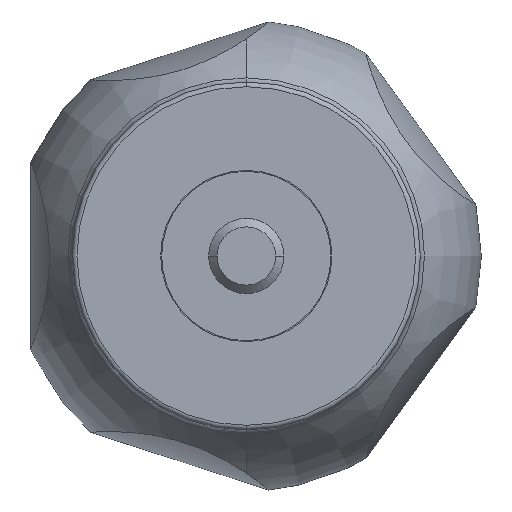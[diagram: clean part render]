
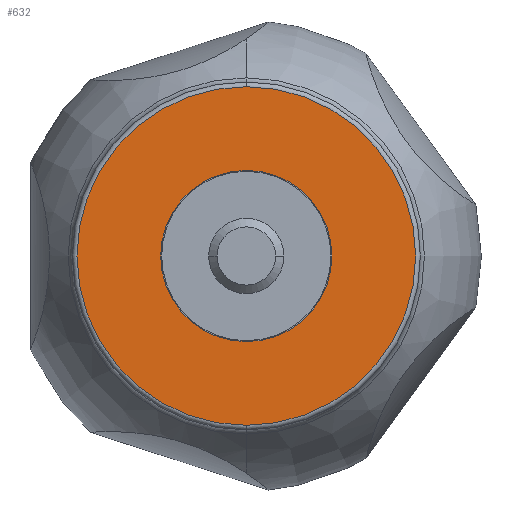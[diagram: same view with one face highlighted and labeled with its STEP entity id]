
A CAD part, left-side view. The second image highlights one B-rep face of the part: STEP entity #632.
In plain terms, the highlighted planar face has unit normal (-1, 0, 0).
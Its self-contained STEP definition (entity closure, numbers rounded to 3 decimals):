
#36 = ORIENTED_EDGE ( 'NONE', *, *, #76, .F. ) ;
#72 = CARTESIAN_POINT ( 'NONE',  ( 0., 0., 0. ) ) ;
#76 = EDGE_CURVE ( 'NONE', #1227, #270, #895, .T. ) ;
#81 = DIRECTION ( 'NONE',  ( 0., 0., 1. ) ) ;
#112 = CIRCLE ( 'NONE', #1389, 18. ) ;
#172 = DIRECTION ( 'NONE',  ( 0., 0., 1. ) ) ;
#221 = DIRECTION ( 'NONE',  ( 0., 0., -1. ) ) ;
#233 = PLANE ( 'NONE',  #1273 ) ;
#262 = EDGE_LOOP ( 'NONE', ( #292, #1156 ) ) ;
#270 = VERTEX_POINT ( 'NONE', #346 ) ;
#292 = ORIENTED_EDGE ( 'NONE', *, *, #635, .T. ) ;
#320 = CIRCLE ( 'NONE', #1270, 9.1 ) ;
#346 = CARTESIAN_POINT ( 'NONE',  ( 0., 0., -9.1 ) ) ;
#351 = VERTEX_POINT ( 'NONE', #1350 ) ;
#354 = EDGE_CURVE ( 'NONE', #270, #1227, #320, .T. ) ;
#416 = CARTESIAN_POINT ( 'NONE',  ( 0., 0., 0. ) ) ;
#484 = EDGE_LOOP ( 'NONE', ( #36, #1263 ) ) ;
#509 = CARTESIAN_POINT ( 'NONE',  ( 0., 0., -18. ) ) ;
#555 = FACE_OUTER_BOUND ( 'NONE', #262, .T. ) ;
#581 = DIRECTION ( 'NONE',  ( 0., 0., 1. ) ) ;
#632 = ADVANCED_FACE ( 'NONE', ( #683, #555 ), #233, .F. ) ;
#635 = EDGE_CURVE ( 'NONE', #351, #781, #1164, .T. ) ;
#683 = FACE_BOUND ( 'NONE', #484, .T. ) ;
#755 = CARTESIAN_POINT ( 'NONE',  ( 0., 0., 0. ) ) ;
#773 = CARTESIAN_POINT ( 'NONE',  ( 0., 9.1, 0. ) ) ;
#781 = VERTEX_POINT ( 'NONE', #509 ) ;
#863 = DIRECTION ( 'NONE',  ( 1., 0., 0. ) ) ;
#895 = CIRCLE ( 'NONE', #1014, 9.1 ) ;
#980 = DIRECTION ( 'NONE',  ( 0., 0., 1. ) ) ;
#1014 = AXIS2_PLACEMENT_3D ( 'NONE', #416, #1053, #81 ) ;
#1053 = DIRECTION ( 'NONE',  ( -1., 0., 0. ) ) ;
#1072 = EDGE_CURVE ( 'NONE', #781, #351, #112, .T. ) ;
#1092 = CARTESIAN_POINT ( 'NONE',  ( 0., 0., 0. ) ) ;
#1104 = AXIS2_PLACEMENT_3D ( 'NONE', #755, #1200, #980 ) ;
#1116 = DIRECTION ( 'NONE',  ( -1., 0., 0. ) ) ;
#1156 = ORIENTED_EDGE ( 'NONE', *, *, #1072, .T. ) ;
#1161 = DIRECTION ( 'NONE',  ( -1., 0., 0. ) ) ;
#1164 = CIRCLE ( 'NONE', #1104, 18. ) ;
#1200 = DIRECTION ( 'NONE',  ( -1., 0., 0. ) ) ;
#1227 = VERTEX_POINT ( 'NONE', #1343 ) ;
#1263 = ORIENTED_EDGE ( 'NONE', *, *, #354, .F. ) ;
#1270 = AXIS2_PLACEMENT_3D ( 'NONE', #72, #1161, #172 ) ;
#1273 = AXIS2_PLACEMENT_3D ( 'NONE', #773, #863, #221 ) ;
#1343 = CARTESIAN_POINT ( 'NONE',  ( 0., 0., 9.1 ) ) ;
#1350 = CARTESIAN_POINT ( 'NONE',  ( 0., 0., 18. ) ) ;
#1389 = AXIS2_PLACEMENT_3D ( 'NONE', #1092, #1116, #581 ) ;
